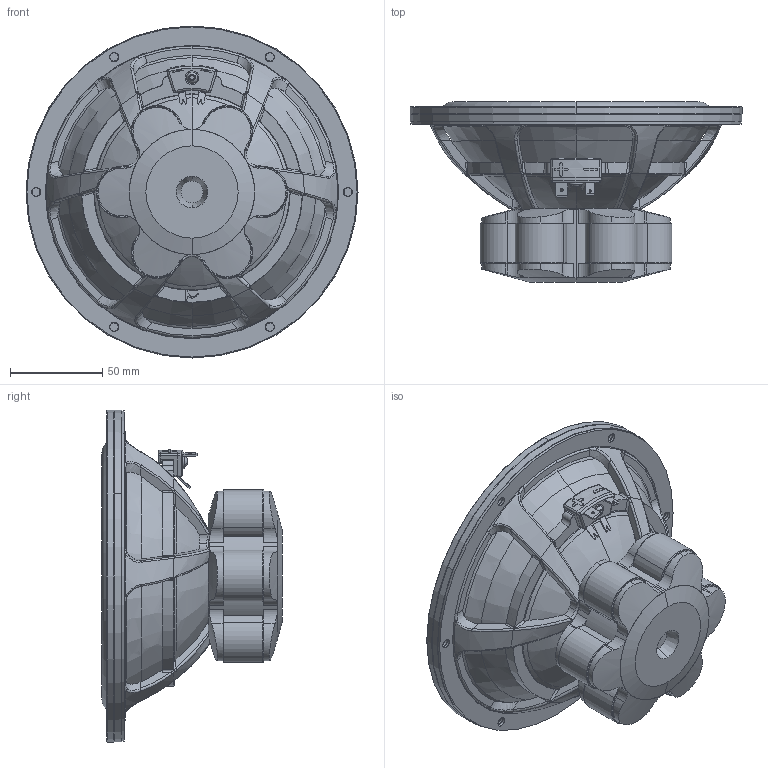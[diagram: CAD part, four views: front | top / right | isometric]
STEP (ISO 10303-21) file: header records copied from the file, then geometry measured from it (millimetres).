
FILE_DESCRIPTION (( 'STEP AP214' ), '1' );
FILE_NAME ('18WE-8542T00.STEP', '2020-12-15T09:43:59', ( '' ), ( '' ), 'SwSTEP 2.0', 'SolidWorks 2019', '' );
FILE_SCHEMA (( 'AUTOMOTIVE_DESIGN' ));
Length unit declared in the file: millimetre
Products named in the file (1): 18WE-8542T00
Bounding box: 180 x 97.71 x 180 mm (x, y, z)
Volume: 785946.3 mm3; surface area: 114161.1 mm2
Topology: 1 solids, 29 shells, 1041 faces, 2634 edges, 1657 vertices
Faces by surface type: cylinder 263, plane 259, bspline 220, torus 159, cone 126, sphere 14
Entity records: 59658 total; most frequent: CARTESIAN_POINT 25946, ORIENTED_EDGE 5252, DIRECTION 4490, EDGE_CURVE 2626, AXIS2_PLACEMENT_3D 1944, VERTEX_POINT 1657, CIRCLE 1122, EDGE_LOOP 1075
